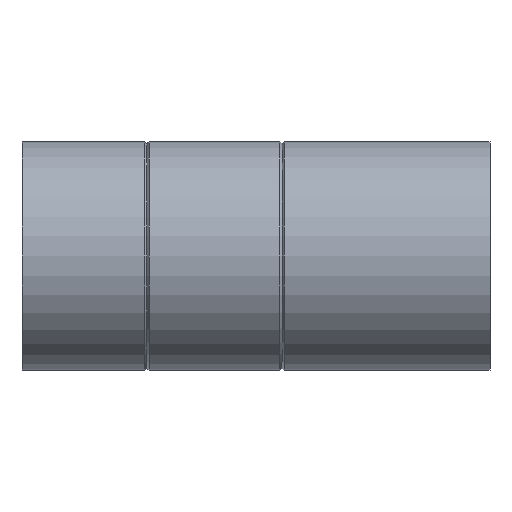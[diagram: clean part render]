
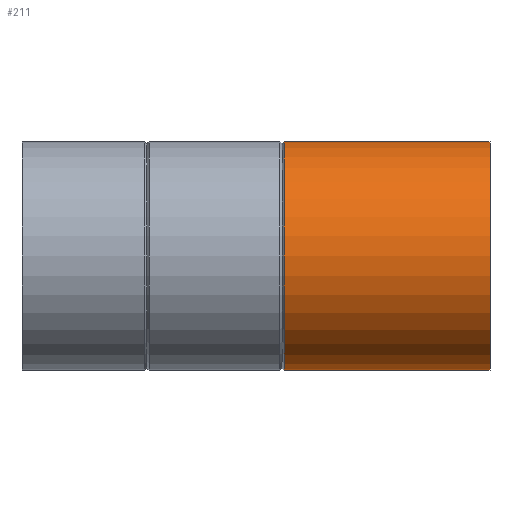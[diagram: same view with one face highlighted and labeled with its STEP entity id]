
A CAD part, left-side view. The second image highlights one B-rep face of the part: STEP entity #211.
In plain terms, the highlighted cylindrical face has radius 55 mm (diameter 110 mm), a full revolution.
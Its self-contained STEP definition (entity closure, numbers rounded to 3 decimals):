
#23=CYLINDRICAL_SURFACE($,#244,55.);
#41=FACE_BOUND($,#87,.T.);
#57=FACE_OUTER_BOUND($,#86,.T.);
#86=EDGE_LOOP($,(#169));
#87=EDGE_LOOP($,(#170));
#100=CIRCLE($,#232,55.);
#106=CIRCLE($,#245,55.);
#116=VERTEX_POINT($,#403);
#123=VERTEX_POINT($,#489);
#133=EDGE_CURVE($,#116,#116,#100,.T.);
#140=EDGE_CURVE($,#123,#123,#106,.T.);
#169=ORIENTED_EDGE($,*,*,#133,.T.);
#170=ORIENTED_EDGE($,*,*,#140,.F.);
#211=ADVANCED_FACE($,(#57,#41),#23,.T.);
#232=AXIS2_PLACEMENT_3D($,#404,#280,#281);
#244=AXIS2_PLACEMENT_3D($,#488,#304,#305);
#245=AXIS2_PLACEMENT_3D($,#490,#306,#307);
#280=DIRECTION('center_axis',(0.,-1.,0.));
#281=DIRECTION('ref_axis',(1.,0.,0.));
#304=DIRECTION('center_axis',(0.,1.,0.));
#305=DIRECTION('ref_axis',(1.,0.,0.));
#306=DIRECTION('center_axis',(0.,-1.,0.));
#307=DIRECTION('ref_axis',(1.,0.,0.));
#403=CARTESIAN_POINT('',(-55.,98.9,0.));
#404=CARTESIAN_POINT('Origin',(0.,98.9,0.));
#488=CARTESIAN_POINT('Origin',(0.,0.,0.));
#489=CARTESIAN_POINT('',(-55.,0.,0.));
#490=CARTESIAN_POINT('Origin',(0.,0.,0.));
